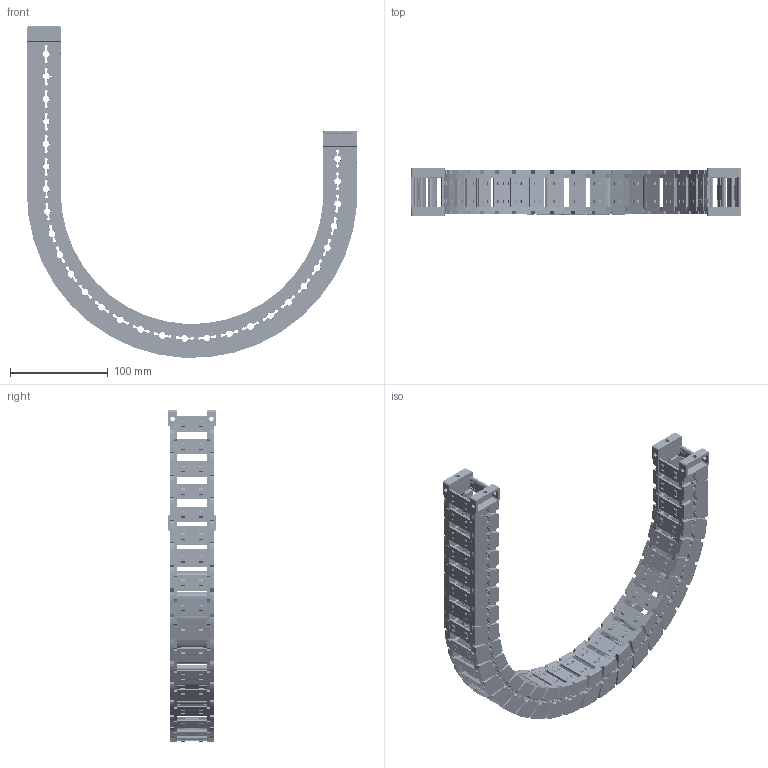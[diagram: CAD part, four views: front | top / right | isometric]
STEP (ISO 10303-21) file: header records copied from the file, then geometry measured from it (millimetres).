
FILE_DESCRIPTION((''),'2;1');
FILE_NAME('JY-28X30-R150_ASM','2026-03-25T20:44:39',('admin'),(''),'CREO PARAMETRIC BY PTC INC, 2021023','CREO PARAMETRIC BY PTC INC, 2021023','');
FILE_SCHEMA(('CONFIG_CONTROL_DESIGN'));
Length unit declared in the file: millimetre
Products named in the file (11): 28XL-L; 25-35XL-YP; 28XL-R; ASM0001_ASM; 28-LTT-A-L; 28-LTT-A-R; 28XL-LTT-A_ASM; 28-LTT-B-L; 28-LTT-B-R; 28XL-LTT-B_ASM; JY-28X30-R150_ASM
Assembly tree (42 placements, depth 3):
  JY-28X30-R150_ASM
    ASM0001_ASM  x28
      28XL-L
      25-35XL-YP
      28XL-R
    28XL-LTT-A_ASM
      28-LTT-A-L
      25-35XL-YP  x2
      28-LTT-A-R
    28XL-LTT-B_ASM
      28-LTT-B-L
      25-35XL-YP  x2
      28-LTT-B-R
Bounding box: 337.23 x 48.5 x 338.94 mm (x, y, z)
Volume: 391800.4 mm3; surface area: 285696.2 mm2
Topology: 120 solids, 120 shells, 9750 faces, 28988 edges, 19358 vertices
Faces by surface type: plane 6392, cone 1766, cylinder 1394, bspline 198
Entity records: 29175 total; most frequent: CARTESIAN_POINT 9500, ORIENTED_EDGE 4352, DIRECTION 3675, EDGE_CURVE 2176, VERTEX_POINT 1454, VECTOR 1365, LINE 1365, AXIS2_PLACEMENT_3D 1155
